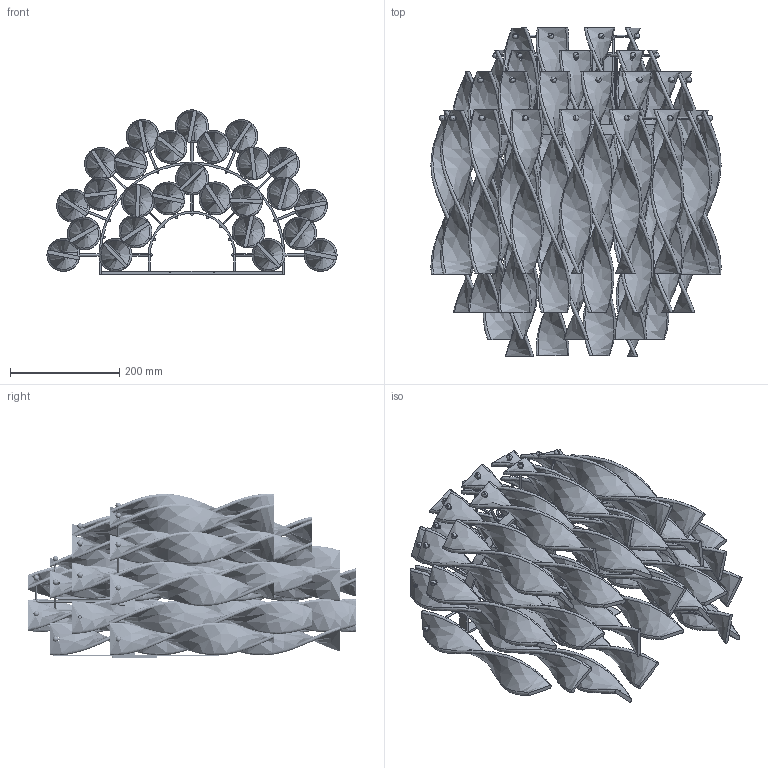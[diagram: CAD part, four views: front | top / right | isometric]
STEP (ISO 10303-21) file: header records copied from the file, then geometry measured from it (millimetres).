
FILE_DESCRIPTION (( 'STEP AP203' ), '1' );
FILE_NAME ('APAURAXXXXXXE27-3D.STEP', '2015-02-13T11:58:58', ( '' ), ( '' ), 'SwSTEP 2.0', 'SolidWorks 2014', '' );
FILE_SCHEMA (( 'CONFIG_CONTROL_DESIGN' ));
Products named in the file (1): APAURAXXXXXXE27-3D
Bounding box: 530.63 x 600 x 300.31 mm (x, y, z)
Volume: 4833706.7 mm3; surface area: 1721877.6 mm2
Topology: 74 solids, 74 shells, 1455 faces, 3921 edges, 2590 vertices
Faces by surface type: cylinder 972, plane 224, bspline 167, sphere 50, torus 38, cone 4
Entity records: 111828 total; most frequent: CARTESIAN_POINT 80782, ORIENTED_EDGE 7592, DIRECTION 5267, EDGE_CURVE 3796, VERTEX_POINT 2515, AXIS2_PLACEMENT_3D 1986, EDGE_LOOP 1577, FACE_OUTER_BOUND 1455
